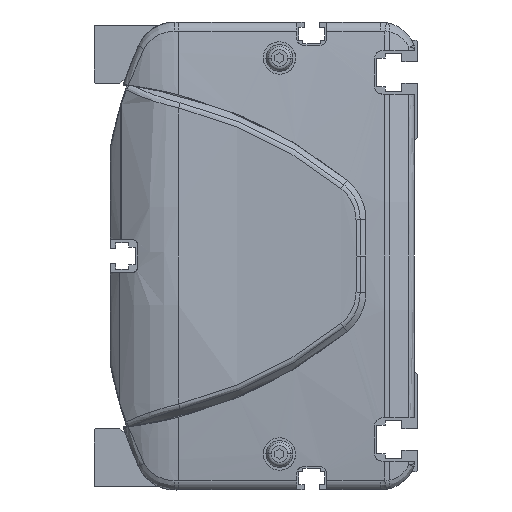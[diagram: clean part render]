
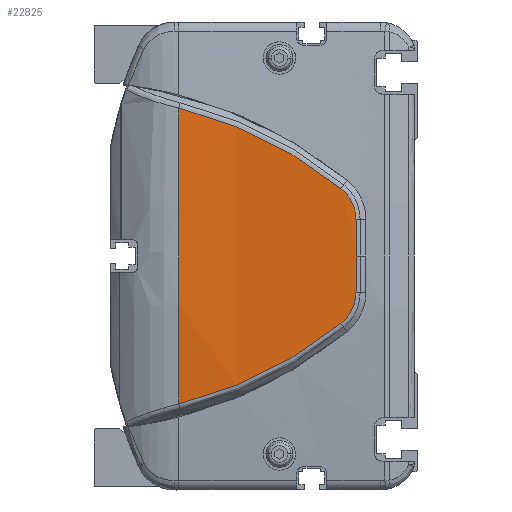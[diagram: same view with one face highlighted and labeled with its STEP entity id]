
A CAD part, left-side view. The second image highlights one B-rep face of the part: STEP entity #22825.
In plain terms, the highlighted cylindrical face has radius 500 mm (diameter 1000 mm), a partial arc.
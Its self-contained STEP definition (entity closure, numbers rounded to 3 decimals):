
#7285=CARTESIAN_POINT('',(486.,66.362,0.));
#7286=DIRECTION('',(0.,-1.,0.));
#7287=DIRECTION('',(-0.997,0.,0.082));
#7288=AXIS2_PLACEMENT_3D('',#7285,#7286,#7287);
#7353=CARTESIAN_POINT('',(-13.648,21.313,
-18.759));
#7354=CARTESIAN_POINT('',(-13.449,27.904,
-24.058));
#7355=CARTESIAN_POINT('',(-12.934,42.195,
-33.27));
#7356=CARTESIAN_POINT('',(-12.471,58.156,
-39.127));
#7357=CARTESIAN_POINT('',(-12.306,66.362,
-41.121));
#7359=CARTESIAN_POINT('',(-12.306,66.362,41.121));
#7360=CARTESIAN_POINT('',(-12.471,58.156,39.127));
#7361=CARTESIAN_POINT('',(-12.934,42.195,33.27));
#7362=CARTESIAN_POINT('',(-13.449,27.904,24.058));
#7363=CARTESIAN_POINT('',(-13.648,21.313,18.759));
#7365=CARTESIAN_POINT('',(-13.648,21.313,18.759));
#7366=CARTESIAN_POINT('',(-13.686,20.035,17.736));
#7367=CARTESIAN_POINT('',(-13.779,17.936,15.107));
#7368=CARTESIAN_POINT('',(-13.863,17.152,11.827));
#7369=CARTESIAN_POINT('',(-13.896,17.124,10.178));
#7371=CARTESIAN_POINT('',(-13.896,17.124,10.178));
#7372=CARTESIAN_POINT('',(-13.92,17.107,9.02));
#7373=CARTESIAN_POINT('',(-13.959,17.067,6.721));
#7374=CARTESIAN_POINT('',(-13.993,16.979,3.327));
#7375=CARTESIAN_POINT('',(-14.,16.898,1.103));
#7376=CARTESIAN_POINT('',(-14.,16.849,
0.));
#7378=CARTESIAN_POINT('',(-14.,16.849,
0.));
#7379=CARTESIAN_POINT('',(-14.,16.898,
-1.103));
#7380=CARTESIAN_POINT('',(-13.993,16.979,
-3.327));
#7381=CARTESIAN_POINT('',(-13.959,17.067,
-6.72));
#7382=CARTESIAN_POINT('',(-13.92,17.107,
-9.022));
#7383=CARTESIAN_POINT('',(-13.896,17.124,
-10.18));
#7385=CARTESIAN_POINT('',(-13.896,17.124,
-10.18));
#7386=CARTESIAN_POINT('',(-13.863,17.152,
-11.828));
#7387=CARTESIAN_POINT('',(-13.779,17.937,
-15.109));
#7388=CARTESIAN_POINT('',(-13.686,20.035,
-17.736));
#7389=CARTESIAN_POINT('',(-13.648,21.313,
-18.759));
#10613=VERTEX_POINT('',#7353);
#10614=VERTEX_POINT('',#7357);
#10615=CARTESIAN_POINT('',(-12.306,66.362,
41.121));
#10616=VERTEX_POINT('',#10615);
#10617=VERTEX_POINT('',#7363);
#10618=VERTEX_POINT('',#7369);
#10619=VERTEX_POINT('',#7376);
#10620=VERTEX_POINT('',#7383);
#22805=CARTESIAN_POINT('',(486.,8.006,0.));
#22806=DIRECTION('',(0.,1.,0.));
#22807=DIRECTION('',(1.,0.,0.));
#22808=AXIS2_PLACEMENT_3D('',#22805,#22806,#22807);
#22809=CYLINDRICAL_SURFACE('',#22808,500.);
#22811=ORIENTED_EDGE('',*,*,#22810,.T.);
#22812=ORIENTED_EDGE('',*,*,#22778,.F.);
#22814=ORIENTED_EDGE('',*,*,#22813,.T.);
#22816=ORIENTED_EDGE('',*,*,#22815,.T.);
#22818=ORIENTED_EDGE('',*,*,#22817,.T.);
#22820=ORIENTED_EDGE('',*,*,#22819,.T.);
#22822=ORIENTED_EDGE('',*,*,#22821,.T.);
#22823=EDGE_LOOP('',(#22811,#22812,#22814,#22816,#22818,#22820,#22822));
#22824=FACE_OUTER_BOUND('',#22823,.F.);
#22825=ADVANCED_FACE('',(#22824),#22809,.T.);
#7289=CIRCLE('',#7288,500.);
#7358=B_SPLINE_CURVE_WITH_KNOTS('',3,(#7353,#7354,#7355,#7356,#7357),
.UNSPECIFIED.,.F.,.F.,(4,1,4),(0.,0.5,1.),.UNSPECIFIED.);
#7364=B_SPLINE_CURVE_WITH_KNOTS('',3,(#7359,#7360,#7361,#7362,#7363),
.UNSPECIFIED.,.F.,.F.,(4,1,4),(0.,0.5,1.),.UNSPECIFIED.);
#7370=B_SPLINE_CURVE_WITH_KNOTS('',3,(#7365,#7366,#7367,#7368,#7369),
.UNSPECIFIED.,.F.,.F.,(4,1,4),(0.,0.5,1.),.UNSPECIFIED.);
#7377=B_SPLINE_CURVE_WITH_KNOTS('',3,(#7371,#7372,#7373,#7374,#7375,#7376),
.UNSPECIFIED.,.F.,.F.,(4,1,1,4),(0.,0.333,0.667,1.),
.UNSPECIFIED.);
#7384=B_SPLINE_CURVE_WITH_KNOTS('',3,(#7378,#7379,#7380,#7381,#7382,#7383),
.UNSPECIFIED.,.F.,.F.,(4,1,1,4),(0.,0.333,0.667,1.),
.UNSPECIFIED.);
#7390=B_SPLINE_CURVE_WITH_KNOTS('',3,(#7385,#7386,#7387,#7388,#7389),
.UNSPECIFIED.,.F.,.F.,(4,1,4),(0.,0.5,1.),.UNSPECIFIED.);
#22778=EDGE_CURVE('',#10616,#10614,#7289,.T.);
#22810=EDGE_CURVE('',#10613,#10614,#7358,.T.);
#22813=EDGE_CURVE('',#10616,#10617,#7364,.T.);
#22815=EDGE_CURVE('',#10617,#10618,#7370,.T.);
#22817=EDGE_CURVE('',#10618,#10619,#7377,.T.);
#22819=EDGE_CURVE('',#10619,#10620,#7384,.T.);
#22821=EDGE_CURVE('',#10620,#10613,#7390,.T.);
